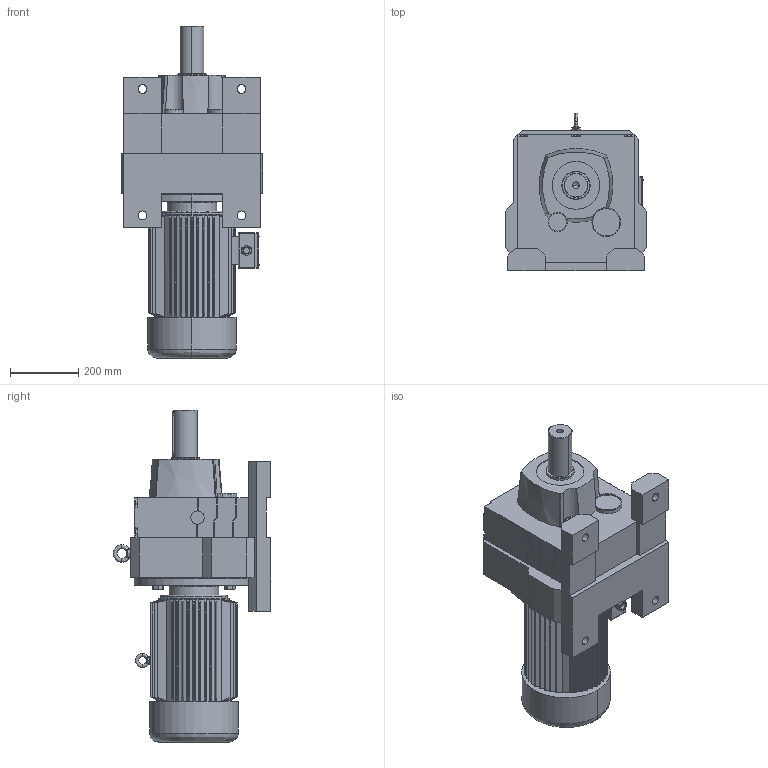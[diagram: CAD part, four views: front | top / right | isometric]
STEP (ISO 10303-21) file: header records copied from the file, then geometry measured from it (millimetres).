
FILE_DESCRIPTION (( 'STEP AP214' ), '1' );
FILE_NAME ('MR107.step', '2020-06-27T03:09:21', ( '' ), ( '' ), 'SwSTEP 2.0', 'SolidWorks 2016', '' );
FILE_SCHEMA (( 'AUTOMOTIVE_DESIGN' ));
Length unit declared in the file: millimetre
Products named in the file (1): MR107
Bounding box: 415 x 462.38 x 973 mm (x, y, z)
Volume: 63317106.3 mm3; surface area: 2110397.8 mm2
Topology: 3 solids, 3 shells, 932 faces, 2415 edges, 1531 vertices
Faces by surface type: plane 513, cone 160, bspline 130, cylinder 129
Entity records: 42862 total; most frequent: CARTESIAN_POINT 11125, ORIENTED_EDGE 4810, DIRECTION 3889, EDGE_CURVE 2405, VERTEX_POINT 1531, VECTOR 1311, LINE 1311, AXIS2_PLACEMENT_3D 1289
